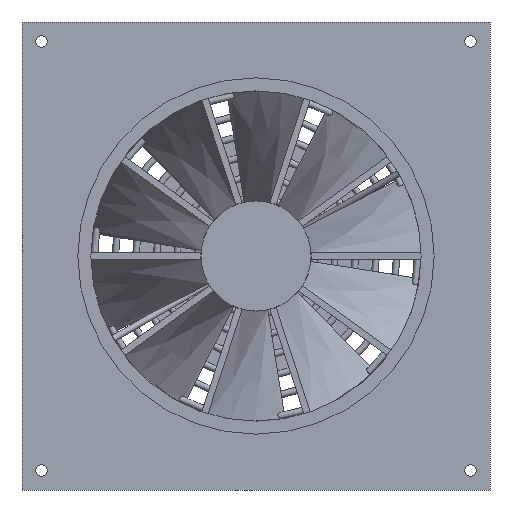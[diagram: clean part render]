
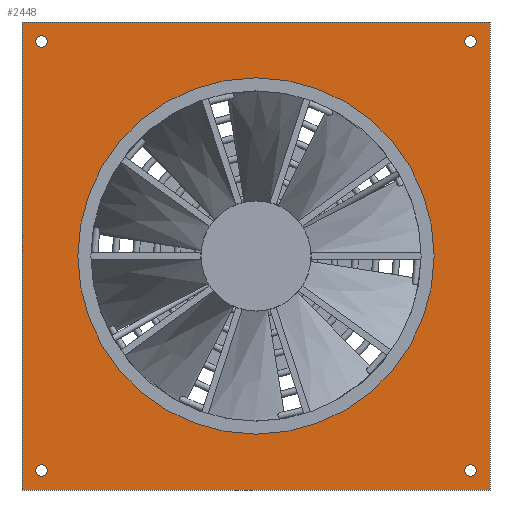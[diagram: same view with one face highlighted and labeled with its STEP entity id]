
A CAD part, front view. The second image highlights one B-rep face of the part: STEP entity #2448.
In plain terms, the highlighted planar face has unit normal (0, -1, 0).
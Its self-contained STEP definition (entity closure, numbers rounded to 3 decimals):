
#135=LINE('',#5951,#273);
#137=LINE('',#5958,#275);
#139=LINE('',#5964,#277);
#140=LINE('',#5966,#278);
#273=VECTOR('',#3011,10.);
#275=VECTOR('',#3019,10.);
#277=VECTOR('',#3025,10.);
#278=VECTOR('',#3028,10.);
#410=PLANE('',#2626);
#490=FACE_BOUND('',#904,.T.);
#491=FACE_BOUND('',#905,.T.);
#492=FACE_BOUND('',#906,.T.);
#493=FACE_BOUND('',#907,.T.);
#494=FACE_BOUND('',#908,.T.);
#564=CIRCLE('',#2615,4.5);
#565=CIRCLE('',#2617,4.5);
#566=CIRCLE('',#2619,4.5);
#567=CIRCLE('',#2621,4.5);
#569=CIRCLE('',#2624,137.);
#701=FACE_OUTER_BOUND('',#903,.T.);
#903=EDGE_LOOP('',(#2277,#2278,#2279,#2280));
#904=EDGE_LOOP('',(#2281));
#905=EDGE_LOOP('',(#2282));
#906=EDGE_LOOP('',(#2283));
#907=EDGE_LOOP('',(#2284));
#908=EDGE_LOOP('',(#2285));
#1228=VERTEX_POINT('',#5948);
#1229=VERTEX_POINT('',#5950);
#1231=VERTEX_POINT('',#5956);
#1233=VERTEX_POINT('',#5962);
#1249=VERTEX_POINT('',#6125);
#1250=VERTEX_POINT('',#6128);
#1251=VERTEX_POINT('',#6131);
#1252=VERTEX_POINT('',#6134);
#1254=VERTEX_POINT('',#6139);
#1544=EDGE_CURVE('',#1229,#1228,#135,.T.);
#1548=EDGE_CURVE('',#1228,#1231,#137,.T.);
#1551=EDGE_CURVE('',#1231,#1233,#139,.T.);
#1552=EDGE_CURVE('',#1233,#1229,#140,.T.);
#1586=EDGE_CURVE('',#1249,#1249,#564,.T.);
#1587=EDGE_CURVE('',#1250,#1250,#565,.T.);
#1588=EDGE_CURVE('',#1251,#1251,#566,.T.);
#1589=EDGE_CURVE('',#1252,#1252,#567,.T.);
#1591=EDGE_CURVE('',#1254,#1254,#569,.T.);
#2277=ORIENTED_EDGE('',*,*,#1544,.T.);
#2278=ORIENTED_EDGE('',*,*,#1548,.T.);
#2279=ORIENTED_EDGE('',*,*,#1551,.T.);
#2280=ORIENTED_EDGE('',*,*,#1552,.T.);
#2281=ORIENTED_EDGE('',*,*,#1586,.T.);
#2282=ORIENTED_EDGE('',*,*,#1587,.T.);
#2283=ORIENTED_EDGE('',*,*,#1588,.T.);
#2284=ORIENTED_EDGE('',*,*,#1589,.T.);
#2285=ORIENTED_EDGE('',*,*,#1591,.T.);
#2448=ADVANCED_FACE('',(#701,#490,#491,#492,#493,#494),#410,.F.);
#2615=AXIS2_PLACEMENT_3D('',#6126,#3083,#3084);
#2617=AXIS2_PLACEMENT_3D('',#6129,#3087,#3088);
#2619=AXIS2_PLACEMENT_3D('',#6132,#3091,#3092);
#2621=AXIS2_PLACEMENT_3D('',#6135,#3095,#3096);
#2624=AXIS2_PLACEMENT_3D('',#6140,#3101,#3102);
#2626=AXIS2_PLACEMENT_3D('',#6142,#3105,#3106);
#3011=DIRECTION('',(1.,0.,0.));
#3019=DIRECTION('',(0.,0.,1.));
#3025=DIRECTION('',(-1.,0.,0.));
#3028=DIRECTION('',(0.,0.,-1.));
#3083=DIRECTION('center_axis',(0.,1.,0.));
#3084=DIRECTION('ref_axis',(1.,0.,0.));
#3087=DIRECTION('center_axis',(0.,1.,0.));
#3088=DIRECTION('ref_axis',(1.,0.,0.));
#3091=DIRECTION('center_axis',(0.,1.,0.));
#3092=DIRECTION('ref_axis',(1.,0.,0.));
#3095=DIRECTION('center_axis',(0.,1.,0.));
#3096=DIRECTION('ref_axis',(1.,0.,0.));
#3101=DIRECTION('center_axis',(0.,1.,0.));
#3102=DIRECTION('ref_axis',(-1.,0.,0.));
#3105=DIRECTION('center_axis',(0.,1.,0.));
#3106=DIRECTION('ref_axis',(0.,0.,1.));
#5948=CARTESIAN_POINT('',(180.,0.,-180.));
#5950=CARTESIAN_POINT('',(-180.,0.,-180.));
#5951=CARTESIAN_POINT('',(-180.,0.,-180.));
#5956=CARTESIAN_POINT('',(180.,0.,180.));
#5958=CARTESIAN_POINT('',(180.,0.,-180.));
#5962=CARTESIAN_POINT('',(-180.,0.,180.));
#5964=CARTESIAN_POINT('',(180.,0.,180.));
#5966=CARTESIAN_POINT('',(-180.,0.,180.));
#6125=CARTESIAN_POINT('',(-160.5,0.,-165.));
#6126=CARTESIAN_POINT('Origin',(-165.,0.,-165.));
#6128=CARTESIAN_POINT('',(169.5,0.,165.));
#6129=CARTESIAN_POINT('Origin',(165.,0.,165.));
#6131=CARTESIAN_POINT('',(169.5,0.,-165.));
#6132=CARTESIAN_POINT('Origin',(165.,0.,-165.));
#6134=CARTESIAN_POINT('',(-160.5,0.,165.));
#6135=CARTESIAN_POINT('Origin',(-165.,0.,165.));
#6139=CARTESIAN_POINT('',(137.,0.,0.));
#6140=CARTESIAN_POINT('Origin',(0.,0.,0.));
#6142=CARTESIAN_POINT('Origin',(0.,0.,0.));
